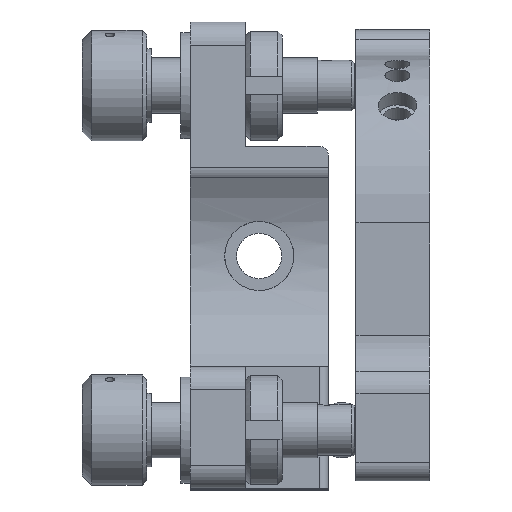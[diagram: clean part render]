
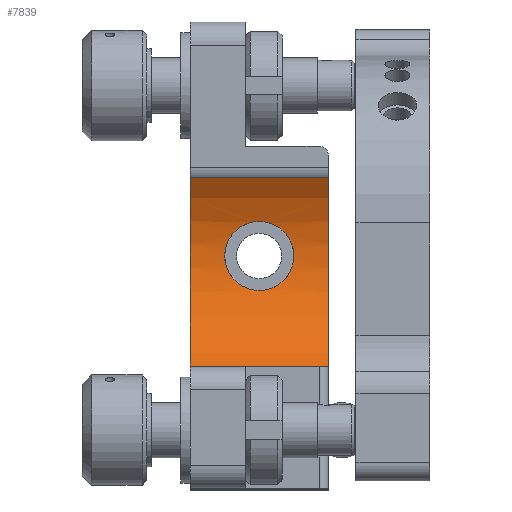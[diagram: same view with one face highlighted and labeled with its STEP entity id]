
A CAD part, left-side view. The second image highlights one B-rep face of the part: STEP entity #7839.
In plain terms, the highlighted cylindrical face has radius 15 mm (diameter 30 mm), a partial arc.
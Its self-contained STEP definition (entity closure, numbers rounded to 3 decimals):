
#60=B_SPLINE_CURVE_WITH_KNOTS('',3,(#12499,#12500,#12501,#12502,#12503,
#12504,#12505,#12506,#12507,#12508,#12509,#12510,#12511,#12512,#12513,#12514,
#12515,#12516),.UNSPECIFIED.,.F.,.F.,(4,2,2,2,2,2,2,2,4),(0.,0.142,
0.284,0.426,0.568,0.71,
0.851,0.993,1.135),.UNSPECIFIED.);
#61=B_SPLINE_CURVE_WITH_KNOTS('',3,(#12517,#12518,#12519,#12520,#12521,
#12522,#12523,#12524,#12525,#12526,#12527,#12528,#12529,#12530,#12531,#12532,
#12533,#12534),.UNSPECIFIED.,.F.,.F.,(4,2,2,2,2,2,2,2,4),(1.135,
1.277,1.419,1.561,1.703,1.845,
1.987,2.129,2.271),.UNSPECIFIED.);
#62=B_SPLINE_CURVE_WITH_KNOTS('',3,(#12679,#12680,#12681,#12682,#12683,
#12684,#12685,#12686,#12687,#12688,#12689,#12690,#12691,#12692,#12693,#12694,
#12695,#12696),.UNSPECIFIED.,.F.,.F.,(4,2,2,2,2,2,2,2,4),(0.,0.142,
0.284,0.426,0.568,0.71,
0.851,0.993,1.135),.UNSPECIFIED.);
#63=B_SPLINE_CURVE_WITH_KNOTS('',3,(#12697,#12698,#12699,#12700,#12701,
#12702,#12703,#12704,#12705,#12706,#12707,#12708,#12709,#12710,#12711,#12712,
#12713,#12714),.UNSPECIFIED.,.F.,.F.,(4,2,2,2,2,2,2,2,4),(1.135,
1.277,1.419,1.561,1.703,1.845,
1.987,2.129,2.271),.UNSPECIFIED.);
#152=FACE_BOUND('',#1015,.T.);
#153=FACE_BOUND('',#1016,.T.);
#250=CYLINDRICAL_SURFACE('',#8565,15.);
#569=FACE_OUTER_BOUND('',#1014,.T.);
#1014=EDGE_LOOP('',(#5914,#5915,#5916,#5917));
#1015=EDGE_LOOP('',(#5918,#5919));
#1016=EDGE_LOOP('',(#5920,#5921));
#1391=CIRCLE('',#8363,15.);
#1472=CIRCLE('',#8477,15.);
#2018=LINE('',#12674,#2630);
#2019=LINE('',#12676,#2631);
#2630=VECTOR('',#10135,10.);
#2631=VECTOR('',#10138,10.);
#3162=VERTEX_POINT('',#12066);
#3163=VERTEX_POINT('',#12068);
#3262=VERTEX_POINT('',#12410);
#3263=VERTEX_POINT('',#12412);
#3289=VERTEX_POINT('',#12497);
#3290=VERTEX_POINT('',#12498);
#3324=VERTEX_POINT('',#12677);
#3325=VERTEX_POINT('',#12678);
#4006=EDGE_CURVE('',#3162,#3163,#1391,.T.);
#4148=EDGE_CURVE('',#3262,#3263,#1472,.T.);
#4193=EDGE_CURVE('',#3289,#3290,#60,.T.);
#4194=EDGE_CURVE('',#3290,#3289,#61,.T.);
#4263=EDGE_CURVE('',#3163,#3262,#2018,.T.);
#4264=EDGE_CURVE('',#3263,#3162,#2019,.T.);
#4265=EDGE_CURVE('',#3324,#3325,#62,.T.);
#4266=EDGE_CURVE('',#3325,#3324,#63,.T.);
#5914=ORIENTED_EDGE('',*,*,#4263,.F.);
#5915=ORIENTED_EDGE('',*,*,#4006,.F.);
#5916=ORIENTED_EDGE('',*,*,#4264,.F.);
#5917=ORIENTED_EDGE('',*,*,#4148,.F.);
#5918=ORIENTED_EDGE('',*,*,#4265,.T.);
#5919=ORIENTED_EDGE('',*,*,#4266,.T.);
#5920=ORIENTED_EDGE('',*,*,#4193,.T.);
#5921=ORIENTED_EDGE('',*,*,#4194,.T.);
#7839=ADVANCED_FACE('',(#569,#152,#153),#250,.F.);
#8363=AXIS2_PLACEMENT_3D('',#12069,#9598,#9599);
#8477=AXIS2_PLACEMENT_3D('',#12413,#9882,#9883);
#8565=AXIS2_PLACEMENT_3D('',#12675,#10136,#10137);
#9598=DIRECTION('center_axis',(0.,-1.,0.));
#9599=DIRECTION('ref_axis',(-0.6,0.,-0.8));
#9882=DIRECTION('center_axis',(0.,1.,0.));
#9883=DIRECTION('ref_axis',(-0.6,0.,-0.8));
#10135=DIRECTION('',(0.,-1.,0.));
#10136=DIRECTION('center_axis',(0.,1.,0.));
#10137=DIRECTION('ref_axis',(-0.6,0.,-0.8));
#10138=DIRECTION('',(0.,1.,0.));
#12066=CARTESIAN_POINT('',(-33.909,15.,13.047));
#12068=CARTESIAN_POINT('',(-13.047,15.,33.909));
#12069=CARTESIAN_POINT('Origin',(-25.4,15.,25.4));
#12410=CARTESIAN_POINT('',(-13.047,0.,33.909));
#12412=CARTESIAN_POINT('',(-33.909,0.,13.047));
#12413=CARTESIAN_POINT('Origin',(-25.4,0.,25.4));
#12497=CARTESIAN_POINT('',(-10.876,7.5,29.15));
#12498=CARTESIAN_POINT('',(-10.876,7.5,21.65));
#12499=CARTESIAN_POINT('Ctrl Pts',(-10.876,7.5,29.15));
#12500=CARTESIAN_POINT('Ctrl Pts',(-10.876,7.027,29.15));
#12501=CARTESIAN_POINT('Ctrl Pts',(-10.851,6.524,29.055));
#12502=CARTESIAN_POINT('Ctrl Pts',(-10.76,5.601,28.672));
#12503=CARTESIAN_POINT('Ctrl Pts',(-10.696,5.18,28.383));
#12504=CARTESIAN_POINT('Ctrl Pts',(-10.577,4.517,27.72));
#12505=CARTESIAN_POINT('Ctrl Pts',(-10.514,4.228,27.3));
#12506=CARTESIAN_POINT('Ctrl Pts',(-10.425,3.845,26.376));
#12507=CARTESIAN_POINT('Ctrl Pts',(-10.4,3.75,25.873));
#12508=CARTESIAN_POINT('Ctrl Pts',(-10.4,3.75,24.927));
#12509=CARTESIAN_POINT('Ctrl Pts',(-10.425,3.845,24.424));
#12510=CARTESIAN_POINT('Ctrl Pts',(-10.514,4.228,23.5));
#12511=CARTESIAN_POINT('Ctrl Pts',(-10.577,4.517,23.08));
#12512=CARTESIAN_POINT('Ctrl Pts',(-10.696,5.18,22.417));
#12513=CARTESIAN_POINT('Ctrl Pts',(-10.76,5.601,22.128));
#12514=CARTESIAN_POINT('Ctrl Pts',(-10.851,6.524,21.745));
#12515=CARTESIAN_POINT('Ctrl Pts',(-10.876,7.027,21.65));
#12516=CARTESIAN_POINT('Ctrl Pts',(-10.876,7.5,21.65));
#12517=CARTESIAN_POINT('Ctrl Pts',(-10.876,7.5,21.65));
#12518=CARTESIAN_POINT('Ctrl Pts',(-10.876,7.973,21.65));
#12519=CARTESIAN_POINT('Ctrl Pts',(-10.851,8.476,21.745));
#12520=CARTESIAN_POINT('Ctrl Pts',(-10.76,9.399,22.128));
#12521=CARTESIAN_POINT('Ctrl Pts',(-10.696,9.82,22.417));
#12522=CARTESIAN_POINT('Ctrl Pts',(-10.577,10.483,23.08));
#12523=CARTESIAN_POINT('Ctrl Pts',(-10.514,10.772,23.5));
#12524=CARTESIAN_POINT('Ctrl Pts',(-10.425,11.155,24.424));
#12525=CARTESIAN_POINT('Ctrl Pts',(-10.4,11.25,24.927));
#12526=CARTESIAN_POINT('Ctrl Pts',(-10.4,11.25,25.873));
#12527=CARTESIAN_POINT('Ctrl Pts',(-10.425,11.155,26.376));
#12528=CARTESIAN_POINT('Ctrl Pts',(-10.514,10.772,27.3));
#12529=CARTESIAN_POINT('Ctrl Pts',(-10.577,10.483,27.72));
#12530=CARTESIAN_POINT('Ctrl Pts',(-10.696,9.82,28.383));
#12531=CARTESIAN_POINT('Ctrl Pts',(-10.76,9.399,28.672));
#12532=CARTESIAN_POINT('Ctrl Pts',(-10.851,8.476,29.055));
#12533=CARTESIAN_POINT('Ctrl Pts',(-10.876,7.973,29.15));
#12534=CARTESIAN_POINT('Ctrl Pts',(-10.876,7.5,29.15));
#12674=CARTESIAN_POINT('',(-13.047,0.,33.909));
#12675=CARTESIAN_POINT('Origin',(-25.4,0.,25.4));
#12676=CARTESIAN_POINT('',(-33.909,0.,13.047));
#12677=CARTESIAN_POINT('',(-21.65,7.5,10.876));
#12678=CARTESIAN_POINT('',(-29.15,7.5,10.876));
#12679=CARTESIAN_POINT('Ctrl Pts',(-21.65,7.5,10.876));
#12680=CARTESIAN_POINT('Ctrl Pts',(-21.65,7.027,10.876));
#12681=CARTESIAN_POINT('Ctrl Pts',(-21.745,6.524,10.851));
#12682=CARTESIAN_POINT('Ctrl Pts',(-22.128,5.601,10.76));
#12683=CARTESIAN_POINT('Ctrl Pts',(-22.417,5.18,10.696));
#12684=CARTESIAN_POINT('Ctrl Pts',(-23.08,4.517,10.577));
#12685=CARTESIAN_POINT('Ctrl Pts',(-23.5,4.228,10.514));
#12686=CARTESIAN_POINT('Ctrl Pts',(-24.424,3.845,10.425));
#12687=CARTESIAN_POINT('Ctrl Pts',(-24.927,3.75,10.4));
#12688=CARTESIAN_POINT('Ctrl Pts',(-25.873,3.75,10.4));
#12689=CARTESIAN_POINT('Ctrl Pts',(-26.376,3.845,10.425));
#12690=CARTESIAN_POINT('Ctrl Pts',(-27.3,4.228,10.514));
#12691=CARTESIAN_POINT('Ctrl Pts',(-27.72,4.517,10.577));
#12692=CARTESIAN_POINT('Ctrl Pts',(-28.383,5.18,10.696));
#12693=CARTESIAN_POINT('Ctrl Pts',(-28.672,5.601,10.76));
#12694=CARTESIAN_POINT('Ctrl Pts',(-29.055,6.524,10.851));
#12695=CARTESIAN_POINT('Ctrl Pts',(-29.15,7.027,10.876));
#12696=CARTESIAN_POINT('Ctrl Pts',(-29.15,7.5,10.876));
#12697=CARTESIAN_POINT('Ctrl Pts',(-29.15,7.5,10.876));
#12698=CARTESIAN_POINT('Ctrl Pts',(-29.15,7.973,10.876));
#12699=CARTESIAN_POINT('Ctrl Pts',(-29.055,8.476,10.851));
#12700=CARTESIAN_POINT('Ctrl Pts',(-28.672,9.399,10.76));
#12701=CARTESIAN_POINT('Ctrl Pts',(-28.383,9.82,10.696));
#12702=CARTESIAN_POINT('Ctrl Pts',(-27.72,10.483,10.577));
#12703=CARTESIAN_POINT('Ctrl Pts',(-27.3,10.772,10.514));
#12704=CARTESIAN_POINT('Ctrl Pts',(-26.376,11.155,10.425));
#12705=CARTESIAN_POINT('Ctrl Pts',(-25.873,11.25,10.4));
#12706=CARTESIAN_POINT('Ctrl Pts',(-24.927,11.25,10.4));
#12707=CARTESIAN_POINT('Ctrl Pts',(-24.424,11.155,10.425));
#12708=CARTESIAN_POINT('Ctrl Pts',(-23.5,10.772,10.514));
#12709=CARTESIAN_POINT('Ctrl Pts',(-23.08,10.483,10.577));
#12710=CARTESIAN_POINT('Ctrl Pts',(-22.417,9.82,10.696));
#12711=CARTESIAN_POINT('Ctrl Pts',(-22.128,9.399,10.76));
#12712=CARTESIAN_POINT('Ctrl Pts',(-21.745,8.476,10.851));
#12713=CARTESIAN_POINT('Ctrl Pts',(-21.65,7.973,10.876));
#12714=CARTESIAN_POINT('Ctrl Pts',(-21.65,7.5,10.876));
